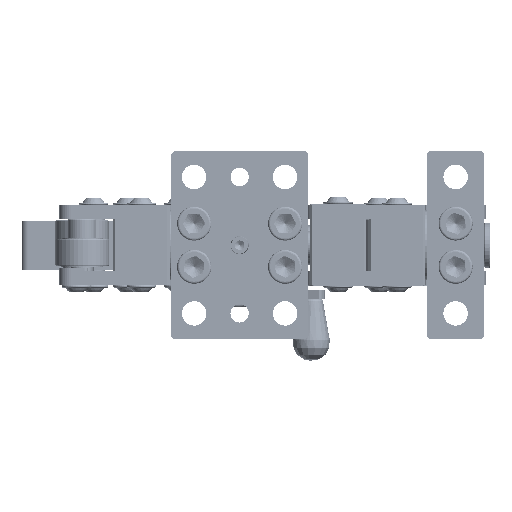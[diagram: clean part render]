
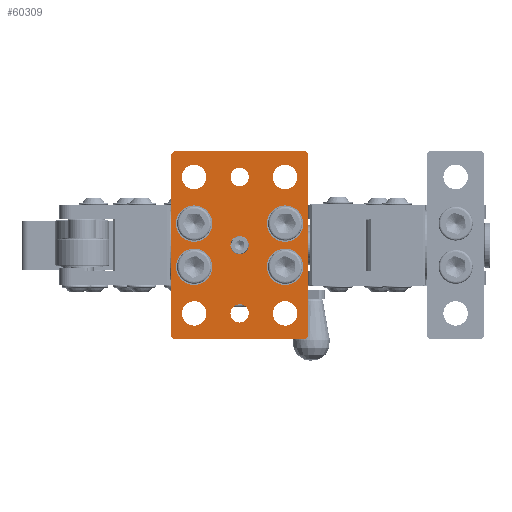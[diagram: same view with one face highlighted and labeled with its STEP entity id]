
A CAD part, left-side view. The second image highlights one B-rep face of the part: STEP entity #60309.
In plain terms, the highlighted planar face has unit normal (-1, 0, 0) as drawn and (0, 0, -1) by its records, which use the part's own axes.
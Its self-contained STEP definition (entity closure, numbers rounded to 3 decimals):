
#5846=FACE_BOUND('',#14448,.T.);
#5847=FACE_BOUND('',#14449,.T.);
#5848=FACE_BOUND('',#14450,.T.);
#5849=FACE_BOUND('',#14451,.T.);
#5850=FACE_BOUND('',#14452,.T.);
#5851=FACE_BOUND('',#14453,.T.);
#5852=FACE_BOUND('',#14454,.T.);
#5853=FACE_BOUND('',#14455,.T.);
#5854=FACE_BOUND('',#14456,.T.);
#5855=FACE_BOUND('',#14457,.T.);
#5856=FACE_BOUND('',#14458,.T.);
#7708=PLANE('',#63444);
#10643=FACE_OUTER_BOUND('',#14447,.T.);
#14447=EDGE_LOOP('',(#54639,#54640,#54641,#54642,#54643,#54644,#54645,#54646));
#14448=EDGE_LOOP('',(#54647));
#14449=EDGE_LOOP('',(#54648));
#14450=EDGE_LOOP('',(#54649));
#14451=EDGE_LOOP('',(#54650));
#14452=EDGE_LOOP('',(#54651));
#14453=EDGE_LOOP('',(#54652));
#14454=EDGE_LOOP('',(#54653));
#14455=EDGE_LOOP('',(#54654));
#14456=EDGE_LOOP('',(#54655));
#14457=EDGE_LOOP('',(#54656));
#14458=EDGE_LOOP('',(#54657));
#20119=LINE('',#101765,#25738);
#20126=LINE('',#101777,#25745);
#20132=LINE('',#101789,#25751);
#20134=LINE('',#101793,#25753);
#20136=LINE('',#101799,#25755);
#20138=LINE('',#101803,#25757);
#20143=LINE('',#101811,#25762);
#20146=LINE('',#101862,#25765);
#25738=VECTOR('',#73808,2.828);
#25745=VECTOR('',#73817,161.);
#25751=VECTOR('',#73827,2.828);
#25753=VECTOR('',#73831,116.);
#25755=VECTOR('',#73837,2.828);
#25757=VECTOR('',#73841,161.);
#25762=VECTOR('',#73848,2.828);
#25765=VECTOR('',#73915,116.);
#26961=CIRCLE('',#63370,8.05);
#26964=CIRCLE('',#63374,8.05);
#26965=CIRCLE('',#63376,8.05);
#26968=CIRCLE('',#63382,10.75);
#26972=CIRCLE('',#63389,10.75);
#26976=CIRCLE('',#63396,10.75);
#26979=CIRCLE('',#63402,10.75);
#26986=CIRCLE('',#63423,16.);
#26989=CIRCLE('',#63429,16.);
#26992=CIRCLE('',#63435,16.);
#26995=CIRCLE('',#63441,16.);
#31753=VERTEX_POINT('',#101706);
#31756=VERTEX_POINT('',#101713);
#31757=VERTEX_POINT('',#101716);
#31760=VERTEX_POINT('',#101725);
#31764=VERTEX_POINT('',#101736);
#31768=VERTEX_POINT('',#101747);
#31771=VERTEX_POINT('',#101756);
#31774=VERTEX_POINT('',#101762);
#31775=VERTEX_POINT('',#101764);
#31779=VERTEX_POINT('',#101775);
#31783=VERTEX_POINT('',#101787);
#31784=VERTEX_POINT('',#101791);
#31785=VERTEX_POINT('',#101796);
#31786=VERTEX_POINT('',#101798);
#31787=VERTEX_POINT('',#101802);
#31796=VERTEX_POINT('',#101831);
#31799=VERTEX_POINT('',#101840);
#31802=VERTEX_POINT('',#101849);
#31805=VERTEX_POINT('',#101858);
#39537=EDGE_CURVE('',#31753,#31753,#26961,.T.);
#39540=EDGE_CURVE('',#31756,#31756,#26964,.T.);
#39541=EDGE_CURVE('',#31757,#31757,#26965,.T.);
#39544=EDGE_CURVE('',#31760,#31760,#26968,.T.);
#39548=EDGE_CURVE('',#31764,#31764,#26972,.T.);
#39552=EDGE_CURVE('',#31768,#31768,#26976,.T.);
#39555=EDGE_CURVE('',#31771,#31771,#26979,.T.);
#39558=EDGE_CURVE('',#31774,#31775,#20119,.T.);
#39565=EDGE_CURVE('',#31774,#31779,#20126,.T.);
#39571=EDGE_CURVE('',#31783,#31779,#20132,.T.);
#39573=EDGE_CURVE('',#31783,#31784,#20134,.T.);
#39575=EDGE_CURVE('',#31785,#31786,#20136,.T.);
#39577=EDGE_CURVE('',#31787,#31786,#20138,.T.);
#39582=EDGE_CURVE('',#31787,#31784,#20143,.T.);
#39591=EDGE_CURVE('',#31796,#31796,#26986,.T.);
#39594=EDGE_CURVE('',#31799,#31799,#26989,.T.);
#39597=EDGE_CURVE('',#31802,#31802,#26992,.T.);
#39600=EDGE_CURVE('',#31805,#31805,#26995,.T.);
#39601=EDGE_CURVE('',#31785,#31775,#20146,.T.);
#54639=ORIENTED_EDGE('',*,*,#39558,.F.);
#54640=ORIENTED_EDGE('',*,*,#39565,.T.);
#54641=ORIENTED_EDGE('',*,*,#39571,.F.);
#54642=ORIENTED_EDGE('',*,*,#39573,.T.);
#54643=ORIENTED_EDGE('',*,*,#39582,.F.);
#54644=ORIENTED_EDGE('',*,*,#39577,.T.);
#54645=ORIENTED_EDGE('',*,*,#39575,.F.);
#54646=ORIENTED_EDGE('',*,*,#39601,.T.);
#54647=ORIENTED_EDGE('',*,*,#39537,.T.);
#54648=ORIENTED_EDGE('',*,*,#39540,.T.);
#54649=ORIENTED_EDGE('',*,*,#39541,.T.);
#54650=ORIENTED_EDGE('',*,*,#39544,.T.);
#54651=ORIENTED_EDGE('',*,*,#39548,.T.);
#54652=ORIENTED_EDGE('',*,*,#39552,.T.);
#54653=ORIENTED_EDGE('',*,*,#39555,.T.);
#54654=ORIENTED_EDGE('',*,*,#39591,.T.);
#54655=ORIENTED_EDGE('',*,*,#39594,.T.);
#54656=ORIENTED_EDGE('',*,*,#39597,.T.);
#54657=ORIENTED_EDGE('',*,*,#39600,.T.);
#60309=ADVANCED_FACE('',(#10643,#5846,#5847,#5848,#5849,#5850,#5851,#5852,
#5853,#5854,#5855,#5856),#7708,.F.);
#63370=AXIS2_PLACEMENT_3D('',#101707,#73738,#73739);
#63374=AXIS2_PLACEMENT_3D('',#101714,#73746,#73747);
#63376=AXIS2_PLACEMENT_3D('',#101717,#73750,#73751);
#63382=AXIS2_PLACEMENT_3D('',#101726,#73762,#73763);
#63389=AXIS2_PLACEMENT_3D('',#101737,#73776,#73777);
#63396=AXIS2_PLACEMENT_3D('',#101748,#73790,#73791);
#63402=AXIS2_PLACEMENT_3D('',#101757,#73802,#73803);
#63423=AXIS2_PLACEMENT_3D('',#101832,#73873,#73874);
#63429=AXIS2_PLACEMENT_3D('',#101841,#73885,#73886);
#63435=AXIS2_PLACEMENT_3D('',#101850,#73897,#73898);
#63441=AXIS2_PLACEMENT_3D('',#101859,#73909,#73910);
#63444=AXIS2_PLACEMENT_3D('',#101863,#73916,#73917);
#73738=DIRECTION('center_axis',(0.,0.,1.));
#73739=DIRECTION('ref_axis',(1.,0.,0.));
#73746=DIRECTION('center_axis',(0.,0.,1.));
#73747=DIRECTION('ref_axis',(1.,0.,0.));
#73750=DIRECTION('center_axis',(0.,0.,1.));
#73751=DIRECTION('ref_axis',(1.,0.,0.));
#73762=DIRECTION('center_axis',(0.,0.,1.));
#73763=DIRECTION('ref_axis',(1.,0.,0.));
#73776=DIRECTION('center_axis',(0.,0.,1.));
#73777=DIRECTION('ref_axis',(1.,0.,0.));
#73790=DIRECTION('center_axis',(0.,0.,1.));
#73791=DIRECTION('ref_axis',(1.,0.,0.));
#73802=DIRECTION('center_axis',(0.,0.,1.));
#73803=DIRECTION('ref_axis',(1.,0.,0.));
#73808=DIRECTION('',(-0.707,-0.707,0.));
#73817=DIRECTION('',(1.,0.,0.));
#73827=DIRECTION('',(-0.707,0.707,0.));
#73831=DIRECTION('',(0.,-1.,0.));
#73837=DIRECTION('',(0.707,-0.707,0.));
#73841=DIRECTION('',(-1.,0.,0.));
#73848=DIRECTION('',(0.707,0.707,0.));
#73873=DIRECTION('center_axis',(0.,0.,1.));
#73874=DIRECTION('ref_axis',(-1.,0.,0.));
#73885=DIRECTION('center_axis',(0.,0.,1.));
#73886=DIRECTION('ref_axis',(-1.,0.,0.));
#73897=DIRECTION('center_axis',(0.,0.,1.));
#73898=DIRECTION('ref_axis',(-1.,0.,0.));
#73909=DIRECTION('center_axis',(0.,0.,1.));
#73910=DIRECTION('ref_axis',(-1.,0.,0.));
#73915=DIRECTION('',(0.,1.,0.));
#73916=DIRECTION('center_axis',(0.,0.,1.));
#73917=DIRECTION('ref_axis',(1.,0.,0.));
#101706=CARTESIAN_POINT('',(-8.05,0.,0.));
#101707=CARTESIAN_POINT('Origin',(0.,0.,0.));
#101713=CARTESIAN_POINT('',(-51.95,0.,0.));
#101714=CARTESIAN_POINT('Origin',(-60.,0.,0.));
#101716=CARTESIAN_POINT('',(68.05,0.,0.));
#101717=CARTESIAN_POINT('Origin',(60.,0.,0.));
#101725=CARTESIAN_POINT('',(70.75,-40.,0.));
#101726=CARTESIAN_POINT('Origin',(60.,-40.,0.));
#101736=CARTESIAN_POINT('',(-49.25,40.,0.));
#101737=CARTESIAN_POINT('Origin',(-60.,40.,0.));
#101747=CARTESIAN_POINT('',(-49.25,-40.,0.));
#101748=CARTESIAN_POINT('Origin',(-60.,-40.,0.));
#101756=CARTESIAN_POINT('',(70.75,40.,0.));
#101757=CARTESIAN_POINT('Origin',(60.,40.,0.));
#101762=CARTESIAN_POINT('',(-80.5,60.,0.));
#101764=CARTESIAN_POINT('',(-82.5,58.,0.));
#101765=CARTESIAN_POINT('',(-75.875,64.625,0.));
#101775=CARTESIAN_POINT('',(80.5,60.,0.));
#101777=CARTESIAN_POINT('',(-82.5,60.,0.));
#101787=CARTESIAN_POINT('',(82.5,58.,0.));
#101789=CARTESIAN_POINT('',(75.875,64.625,0.));
#101791=CARTESIAN_POINT('',(82.5,-58.,0.));
#101793=CARTESIAN_POINT('',(82.5,60.,0.));
#101796=CARTESIAN_POINT('',(-82.5,-58.,0.));
#101798=CARTESIAN_POINT('',(-80.5,-60.,0.));
#101799=CARTESIAN_POINT('',(-75.875,-64.625,0.));
#101802=CARTESIAN_POINT('',(80.5,-60.,0.));
#101803=CARTESIAN_POINT('',(82.5,-60.,0.));
#101811=CARTESIAN_POINT('',(75.875,-64.625,0.));
#101831=CARTESIAN_POINT('',(-35.,-40.,0.));
#101832=CARTESIAN_POINT('Origin',(-19.,-40.,0.));
#101840=CARTESIAN_POINT('',(3.,40.,0.));
#101841=CARTESIAN_POINT('Origin',(19.,40.,0.));
#101849=CARTESIAN_POINT('',(3.,-40.,0.));
#101850=CARTESIAN_POINT('Origin',(19.,-40.,0.));
#101858=CARTESIAN_POINT('',(-35.,40.,0.));
#101859=CARTESIAN_POINT('Origin',(-19.,40.,0.));
#101862=CARTESIAN_POINT('',(-82.5,-60.,0.));
#101863=CARTESIAN_POINT('Origin',(0.,0.,0.));
